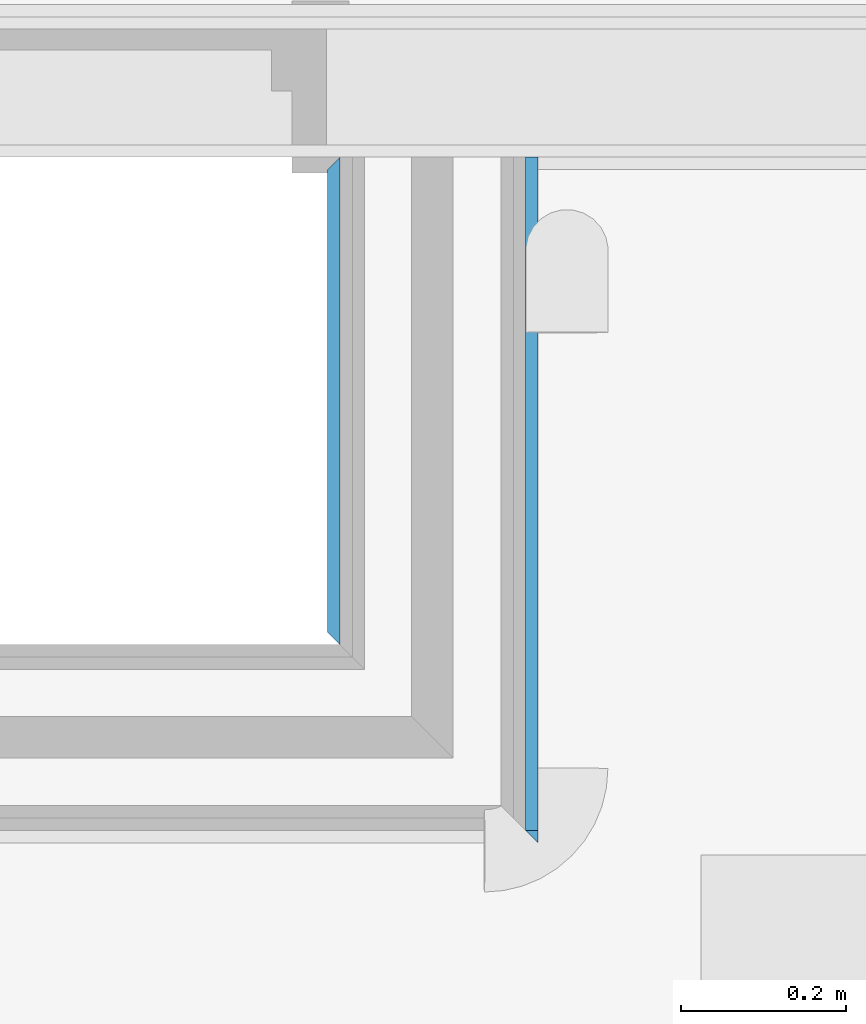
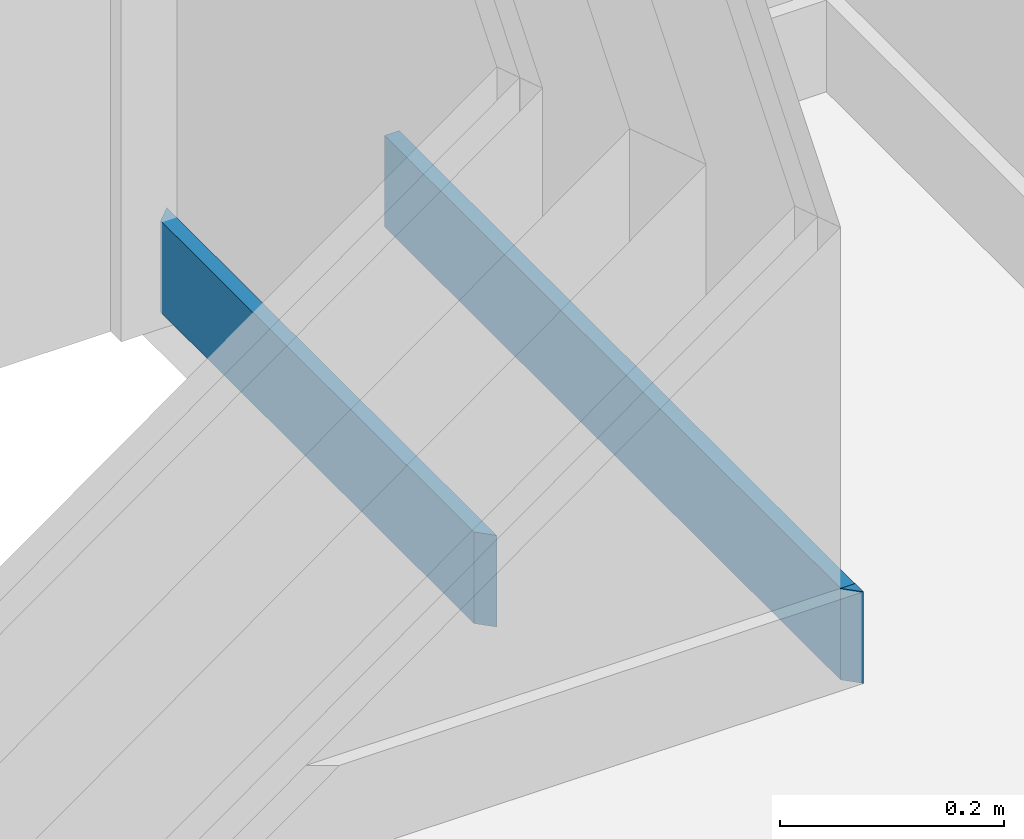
# One storey, part 6 of 85: 3 walls.
"""IFC2X3 building model written with IfcOpenShell, lengths in metres."""

from ifc_helpers import new_model, entity, si_unit, converted_unit, derived_unit, money_unit, direction, frame, frame_2d, origin_with_axes, place, context, subcontext, project, spatial, polyline, rectangle, outline, extrude, material, layer, layer_set, layer_usage, type_object, element, save


model = new_model("IFC2X3")

# Units and contexts
model_context = context("Model", 3, precision=1e-05, world=origin_with_axes(), true_north=direction((0.0, 1.0)))
body_context = subcontext(model_context, "Body", "Model", "MODEL_VIEW", scale=1.0)
ifc_project = project(units=[si_unit("LENGTHUNIT", "METRE"), si_unit("AREAUNIT", "SQUARE_METRE"), si_unit("VOLUMEUNIT", "CUBIC_METRE"), si_unit("ABSORBEDDOSEUNIT", "GRAY"), si_unit("AMOUNTOFSUBSTANCEUNIT", "MOLE"), si_unit("DOSEEQUIVALENTUNIT", "SIEVERT"), si_unit("ELECTRICCAPACITANCEUNIT", "FARAD"), si_unit("ELECTRICCHARGEUNIT", "COULOMB"), si_unit("ELECTRICCONDUCTANCEUNIT", "SIEMENS"), si_unit("ELECTRICCURRENTUNIT", "AMPERE"), si_unit("ELECTRICRESISTANCEUNIT", "OHM"), si_unit("ELECTRICVOLTAGEUNIT", "VOLT"), si_unit("ENERGYUNIT", "JOULE"), si_unit("FORCEUNIT", "NEWTON"), si_unit("FREQUENCYUNIT", "HERTZ"), si_unit("ILLUMINANCEUNIT", "LUX"), si_unit("INDUCTANCEUNIT", "HENRY"), si_unit("LUMINOUSFLUXUNIT", "LUMEN"), si_unit("LUMINOUSINTENSITYUNIT", "CANDELA"), si_unit("MAGNETICFLUXDENSITYUNIT", "TESLA"), si_unit("MAGNETICFLUXUNIT", "WEBER"), si_unit("MASSUNIT", "GRAM"), converted_unit("PLANEANGLEUNIT", "degree", entity("IfcReal", 0.0174532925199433), si_unit("PLANEANGLEUNIT", "RADIAN"), dimensions=[0, 0, 0, 0, 0, 0, 0]), si_unit("POWERUNIT", "WATT"), si_unit("PRESSUREUNIT", "PASCAL"), si_unit("RADIOACTIVITYUNIT", "BECQUEREL"), si_unit("SOLIDANGLEUNIT", "STERADIAN"), si_unit("THERMODYNAMICTEMPERATUREUNIT", "KELVIN"), si_unit("TIMEUNIT", "SECOND"), derived_unit("ACCELERATIONUNIT", [(si_unit("LENGTHUNIT", "METRE"), 1), (si_unit("TIMEUNIT", "SECOND"), -2)]), derived_unit("ANGULARVELOCITYUNIT", [(converted_unit("PLANEANGLEUNIT", "degree", entity("IfcReal", 0.0174532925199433), si_unit("PLANEANGLEUNIT", "RADIAN"), dimensions=[0, 0, 0, 0, 0, 0, 0]), 1), (si_unit("TIMEUNIT", "SECOND"), -1)]), derived_unit("CURVATUREUNIT", [(converted_unit("PLANEANGLEUNIT", "degree", entity("IfcReal", 0.0174532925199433), si_unit("PLANEANGLEUNIT", "RADIAN"), dimensions=[0, 0, 0, 0, 0, 0, 0]), 1), (si_unit("LENGTHUNIT", "METRE"), -1)]), derived_unit("DYNAMICVISCOSITYUNIT", [(si_unit("PRESSUREUNIT", "PASCAL"), 1), (si_unit("TIMEUNIT", "SECOND"), 1)]), derived_unit("HEATFLUXDENSITYUNIT", [(si_unit("POWERUNIT", "WATT"), 1), (si_unit("LENGTHUNIT", "METRE"), -2)]), derived_unit("HEATINGVALUEUNIT", [(si_unit("ENERGYUNIT", "JOULE"), 1), (si_unit("MASSUNIT", "GRAM"), -1)]), derived_unit("INTEGERCOUNTRATEUNIT", [(si_unit("TIMEUNIT", "SECOND"), -1)]), derived_unit("IONCONCENTRATIONUNIT", [(si_unit("MASSUNIT", "GRAM"), 1), (si_unit("VOLUMEUNIT", "CUBIC_METRE"), -1)]), derived_unit("ISOTHERMALMOISTURECAPACITYUNIT", [(si_unit("VOLUMEUNIT", "CUBIC_METRE"), 1), (si_unit("MASSUNIT", "GRAM"), -1)]), derived_unit("KINEMATICVISCOSITYUNIT", [(si_unit("AREAUNIT", "SQUARE_METRE"), 1), (si_unit("TIMEUNIT", "SECOND"), -1)]), derived_unit("LINEARFORCEUNIT", [(si_unit("FORCEUNIT", "NEWTON"), 1), (si_unit("LENGTHUNIT", "METRE"), -1)]), derived_unit("LINEARMOMENTUNIT", [(si_unit("FORCEUNIT", "NEWTON"), 1), (si_unit("LENGTHUNIT", "METRE"), -1)]), derived_unit("LINEARSTIFFNESSUNIT", [(si_unit("FORCEUNIT", "NEWTON"), 1), (si_unit("LENGTHUNIT", "METRE"), -1)]), derived_unit("LINEARVELOCITYUNIT", [(si_unit("LENGTHUNIT", "METRE"), 1), (si_unit("TIMEUNIT", "SECOND"), -1)]), derived_unit("LUMINOUSINTENSITYDISTRIBUTIONUNIT", [(si_unit("LUMINOUSINTENSITYUNIT", "CANDELA"), 1), (si_unit("LUMINOUSFLUXUNIT", "LUMEN"), -1)]), derived_unit("MASSDENSITYUNIT", [(si_unit("MASSUNIT", "GRAM"), 1), (si_unit("VOLUMEUNIT", "CUBIC_METRE"), -1)]), derived_unit("MASSFLOWRATEUNIT", [(si_unit("MASSUNIT", "GRAM"), 1), (si_unit("TIMEUNIT", "SECOND"), -1)]), derived_unit("MASSPERLENGTHUNIT", [(si_unit("MASSUNIT", "GRAM"), 1), (si_unit("LENGTHUNIT", "METRE"), -1)]), derived_unit("MODULUSOFELASTICITYUNIT", [(si_unit("FORCEUNIT", "NEWTON"), 1), (si_unit("AREAUNIT", "SQUARE_METRE"), -1)]), derived_unit("MODULUSOFLINEARSUBGRADEREACTIONUNIT", [(si_unit("FORCEUNIT", "NEWTON"), 1), (si_unit("LENGTHUNIT", "METRE"), -2)]), derived_unit("MODULUSOFROTATIONALSUBGRADEREACTIONUNIT", [(si_unit("FORCEUNIT", "NEWTON"), 1), (si_unit("LENGTHUNIT", "METRE"), 1)]), derived_unit("MODULUSOFSUBGRADEREACTIONUNIT", [(si_unit("FORCEUNIT", "NEWTON"), 1), (si_unit("VOLUMEUNIT", "CUBIC_METRE"), -1)]), derived_unit("MOISTUREDIFFUSIVITYUNIT", [(si_unit("VOLUMEUNIT", "CUBIC_METRE"), 1), (si_unit("TIMEUNIT", "SECOND"), -1)]), derived_unit("MOLECULARWEIGHTUNIT", [(si_unit("MASSUNIT", "GRAM"), 1), (si_unit("AMOUNTOFSUBSTANCEUNIT", "MOLE"), -1)]), derived_unit("PLANARFORCEUNIT", [(si_unit("FORCEUNIT", "NEWTON"), 1), (si_unit("LENGTHUNIT", "METRE"), -2)]), derived_unit("ROTATIONALFREQUENCYUNIT", [(si_unit("TIMEUNIT", "SECOND"), -1)]), derived_unit("ROTATIONALMASSUNIT", [(si_unit("MASSUNIT", "GRAM"), 1), (si_unit("LENGTHUNIT", "METRE"), 2)]), derived_unit("ROTATIONALSTIFFNESSUNIT", [(si_unit("FORCEUNIT", "NEWTON"), 1), (si_unit("LENGTHUNIT", "METRE"), 1), (converted_unit("PLANEANGLEUNIT", "degree", entity("IfcReal", 0.0174532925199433), si_unit("PLANEANGLEUNIT", "RADIAN"), dimensions=[0, 0, 0, 0, 0, 0, 0]), -1)]), derived_unit("SECTIONAREAINTEGRALUNIT", [(si_unit("LENGTHUNIT", "METRE"), 5)]), derived_unit("SECTIONMODULUSUNIT", [(si_unit("LENGTHUNIT", "METRE"), 3)]), derived_unit("SHEARMODULUSUNIT", [(si_unit("FORCEUNIT", "NEWTON"), 1), (si_unit("AREAUNIT", "SQUARE_METRE"), -1)]), derived_unit("SOUNDPOWERUNIT", [(si_unit("ENERGYUNIT", "JOULE"), 1), (si_unit("TIMEUNIT", "SECOND"), -1)]), derived_unit("SPECIFICHEATCAPACITYUNIT", [(si_unit("FORCEUNIT", "NEWTON"), 1), (si_unit("MASSUNIT", "GRAM"), -1), (si_unit("THERMODYNAMICTEMPERATUREUNIT", "KELVIN"), -1)]), derived_unit("TEMPERATUREGRADIENTUNIT", [(si_unit("THERMODYNAMICTEMPERATUREUNIT", "KELVIN"), 1), (si_unit("LENGTHUNIT", "METRE"), -1)]), derived_unit("THERMALADMITTANCEUNIT", [(si_unit("POWERUNIT", "WATT"), 1), (si_unit("AREAUNIT", "SQUARE_METRE"), -1), (si_unit("THERMODYNAMICTEMPERATUREUNIT", "KELVIN"), -1)]), derived_unit("THERMALCONDUCTANCEUNIT", [(si_unit("POWERUNIT", "WATT"), 1), (si_unit("LENGTHUNIT", "METRE"), -1), (si_unit("THERMODYNAMICTEMPERATUREUNIT", "KELVIN"), -1)]), derived_unit("THERMALEXPANSIONCOEFFICIENTUNIT", [(si_unit("THERMODYNAMICTEMPERATUREUNIT", "KELVIN"), -1)]), derived_unit("THERMALRESISTANCEUNIT", [(si_unit("AREAUNIT", "SQUARE_METRE"), 1), (si_unit("POWERUNIT", "WATT"), -1)]), derived_unit("THERMALTRANSMITTANCEUNIT", [(si_unit("POWERUNIT", "WATT"), 1), (si_unit("AREAUNIT", "SQUARE_METRE"), -1), (si_unit("THERMODYNAMICTEMPERATUREUNIT", "KELVIN"), -1)]), derived_unit("TORQUEUNIT", [(si_unit("FORCEUNIT", "NEWTON"), 1), (si_unit("LENGTHUNIT", "METRE"), 1)]), derived_unit("VAPORPERMEABILITYUNIT", [(si_unit("MASSUNIT", "GRAM"), 1), (si_unit("TIMEUNIT", "SECOND"), -1)]), derived_unit("VOLUMETRICFLOWRATEUNIT", [(si_unit("VOLUMEUNIT", "CUBIC_METRE"), 1), (si_unit("TIMEUNIT", "SECOND"), -1)]), derived_unit("WARPINGCONSTANTUNIT", [(si_unit("LENGTHUNIT", "METRE"), 6)]), derived_unit("WARPINGMOMENTUNIT", [(si_unit("FORCEUNIT", "NEWTON"), 1), (si_unit("LENGTHUNIT", "METRE"), 2)]), money_unit("GBP")], contexts=[model_context])

# Site, building, storey
site_placement = place(None, origin_with_axes())
site = spatial("IfcSite", under=ifc_project, at=site_placement, Name="Site", CompositionType="ELEMENT")
building_placement = place(site_placement, origin_with_axes())
building = spatial("IfcBuilding", under=site, at=building_placement, Name="Building01", CompositionType="ELEMENT")
storey_placement = place(building_placement, frame((0.0, 0.0, 12.13), z_axis=(0.0, 0.0, 1.0), x_axis=(1.0, 0.0, 0.0)))
storey = spatial("IfcBuildingStorey", under=building, at=storey_placement, Name="3F", CompositionType="ELEMENT", Elevation=12.13)

# Walls
ifc_material = material(Name="A_BSUK_Walls_Timber")
ifc_layer = layer(ifc_material, 0.015, ventilated=False)
ifc_layer_set = layer_set([ifc_layer])
ifc_layer_usage = layer_usage(ifc_layer_set, "AXIS2", "POSITIVE", 0.0)
wall_type = type_object("IfcWallType", Name="default", PredefinedType="NOTDEFINED")
wall_1_placement = place(storey_placement, frame((14.61, 4.965, 0.015), z_axis=(0.0, 0.0, 1.0), x_axis=(0.0, -1.0, 0.0)))
element("IfcWallStandardCase", 1, at=wall_1_placement, inside=storey, type_object=wall_type, material=ifc_layer_usage, Name="default", ObjectType="default", context=body_context, shape_type="SweptSolid", body=[
    extrude(outline(polyline([(0.575572, 0.015), (-0.015, 0.015), (0.0, 0.0), (0.560572, 0.0), (0.575572, 0.015)])), origin_with_axes(), (0.0, 0.0, 1.0), 0.1),
])
wall_2_placement = place(storey_placement, frame((14.85, 4.98, 0.015), z_axis=(0.0, 0.0, 1.0), x_axis=(0.0, -1.0, 0.0)))
element("IfcWallStandardCase", 2, at=wall_2_placement, inside=storey, type_object=wall_type, material=ifc_layer_usage, Name="default", ObjectType="default", context=body_context, shape_type="SweptSolid", body=[
    extrude(rectangle(XDim=0.815572, YDim=0.015, at=frame_2d((0.407786, 0.0075), x_axis=(-1.0, 0.0))), origin_with_axes(), (0.0, 0.0, 1.0), 0.1),
])
wall_3_placement = place(storey_placement, frame((14.85, 4.164443, 0.015), z_axis=(0.0, 0.0, 1.0), x_axis=(0.0, 1.0, 0.0)))
element("IfcWallStandardCase", 3, at=wall_3_placement, inside=storey, type_object=wall_type, material=ifc_layer_usage, Name="default", ObjectType="default", context=body_context, shape_type="SweptSolid", body=[
    extrude(outline(polyline([(-0.015015, -0.015), (0.0, -0.015), (0.0, 0.0), (-1.5e-05, 0.0), (-0.015015, -0.015)])), origin_with_axes(), (0.0, 0.0, 1.0), 0.1),
])

save(model, "model.ifc")
